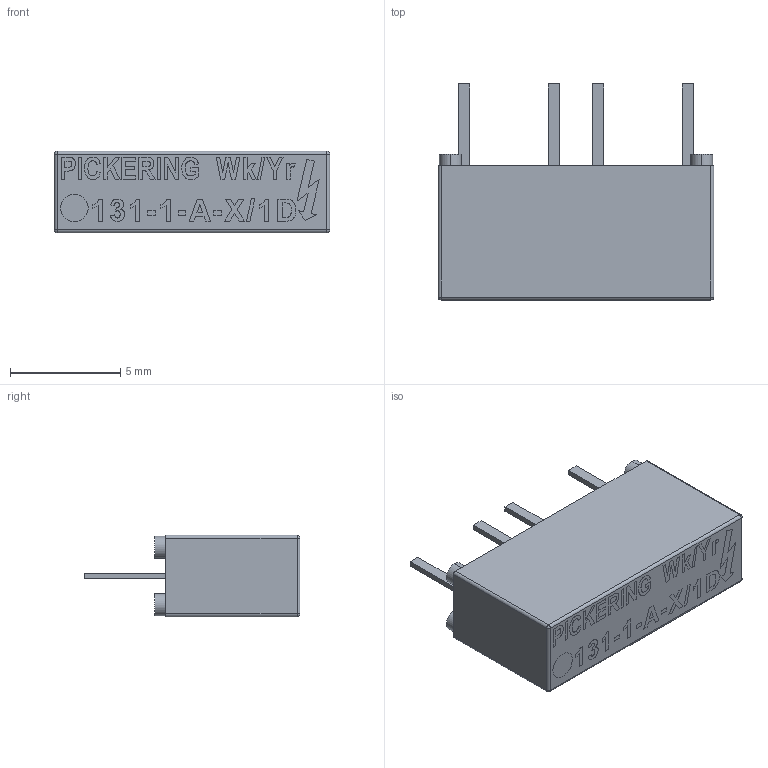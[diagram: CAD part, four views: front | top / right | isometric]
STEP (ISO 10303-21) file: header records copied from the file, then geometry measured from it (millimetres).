
FILE_DESCRIPTION (( 'STEP AP203' ), '1' );
FILE_NAME ('131-1-A-X-1D.STEP', '2020-02-13T16:15:01', ( '' ), ( '' ), 'SwSTEP 2.0', 'SolidWorks 2019', '' );
FILE_SCHEMA (( 'CONFIG_CONTROL_DESIGN' ));
Length unit declared in the file: millimetre
Products named in the file (1): 131-1-A-X-1D
Bounding box: 12.5 x 9.8 x 3.7 mm (x, y, z)
Volume: 285.4 mm3; surface area: 315.6 mm2
Topology: 1 solids, 1 shells, 339 faces, 883 edges, 582 vertices
Faces by surface type: plane 254, bspline 63, cylinder 18, sphere 4
Entity records: 13492 total; most frequent: CARTESIAN_POINT 5504, ORIENTED_EDGE 1758, DIRECTION 1343, EDGE_CURVE 879, LINE 717, VECTOR 717, VERTEX_POINT 582, EDGE_LOOP 379
